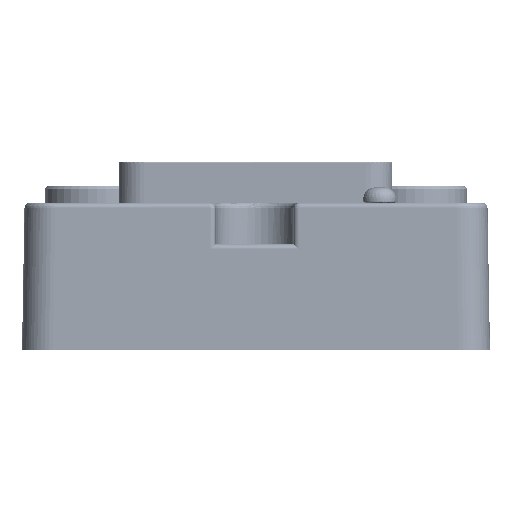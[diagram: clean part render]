
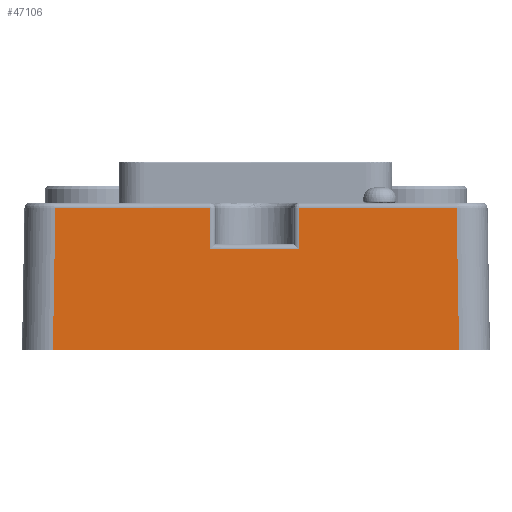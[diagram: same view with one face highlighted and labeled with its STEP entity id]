
A CAD part, left-side view. The second image highlights one B-rep face of the part: STEP entity #47106.
In plain terms, the highlighted planar face has unit normal (-1, 0, 0.018).
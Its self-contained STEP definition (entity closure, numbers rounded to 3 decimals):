
#614 = VERTEX_POINT ( 'NONE', #98675 ) ;
#2257 = LINE ( 'NONE', #100675, #121673 ) ;
#3029 = EDGE_CURVE ( 'NONE', #133093, #178326, #116137, .T. ) ;
#6970 = CARTESIAN_POINT ( 'NONE',  ( -63.129, -4.16, 12.009 ) ) ;
#7585 = CARTESIAN_POINT ( 'NONE',  ( -63.059, -4.16, 16.009 ) ) ;
#10560 = CARTESIAN_POINT ( 'NONE',  ( -63.059, 19.471, 16.009 ) ) ;
#14894 = CARTESIAN_POINT ( 'NONE',  ( -63.059, 4.44, 16.009 ) ) ;
#15286 = CARTESIAN_POINT ( 'NONE',  ( -63.3, 19.712, 2.2 ) ) ;
#19207 = B_SPLINE_CURVE_WITH_KNOTS ( 'NONE', 3,
 ( #10560, #43303, #81333, #15286 ),
 .UNSPECIFIED., .F., .F.,
 ( 4, 4 ),
 ( 0., 1. ),
 .UNSPECIFIED. ) ;
#24008 = EDGE_CURVE ( 'NONE', #166931, #83192, #177763, .T. ) ;
#31771 = CARTESIAN_POINT ( 'NONE',  ( -63.3, 19.712, 2.2 ) ) ;
#37283 = ORIENTED_EDGE ( 'NONE', *, *, #50291, .T. ) ;
#43303 = CARTESIAN_POINT ( 'NONE',  ( -63.139, 19.551, 11.406 ) ) ;
#47106 = ADVANCED_FACE ( 'NONE', ( #136819 ), #200255, .T. ) ;
#47953 = VECTOR ( 'NONE', #165407, 1000. ) ;
#50291 = EDGE_CURVE ( 'NONE', #83192, #114421, #172258, .T. ) ;
#58187 = DIRECTION ( 'NONE',  ( 0., 1., 0. ) ) ;
#59318 = VECTOR ( 'NONE', #119532, 1000. ) ;
#59911 = EDGE_CURVE ( 'NONE', #97400, #166931, #19207, .T. ) ;
#64174 = LINE ( 'NONE', #70493, #59318 ) ;
#64800 = EDGE_CURVE ( 'NONE', #114421, #133093, #78620, .T. ) ;
#68721 = ORIENTED_EDGE ( 'NONE', *, *, #118356, .T. ) ;
#70493 = CARTESIAN_POINT ( 'NONE',  ( -63.18, 4.44, 9.104 ) ) ;
#72523 = CARTESIAN_POINT ( 'NONE',  ( -63.18, -19.592, 9.094 ) ) ;
#76942 = CARTESIAN_POINT ( 'NONE',  ( -63.059, 19.949, 16.009 ) ) ;
#78620 = LINE ( 'NONE', #178844, #159199 ) ;
#79686 = ORIENTED_EDGE ( 'NONE', *, *, #3029, .T. ) ;
#81333 = CARTESIAN_POINT ( 'NONE',  ( -63.22, 19.632, 6.803 ) ) ;
#83192 = VERTEX_POINT ( 'NONE', #109461 ) ;
#84395 = EDGE_LOOP ( 'NONE', ( #138907, #163622, #37283, #135836, #79686, #146900, #117574, #68721 ) ) ;
#86181 = CARTESIAN_POINT ( 'NONE',  ( -63.059, 19.471, 16.009 ) ) ;
#90973 = CARTESIAN_POINT ( 'NONE',  ( -63.059, -19.471, 16.009 ) ) ;
#94658 = EDGE_CURVE ( 'NONE', #614, #106805, #64174, .T. ) ;
#97400 = VERTEX_POINT ( 'NONE', #86181 ) ;
#98471 = DIRECTION ( 'NONE',  ( 0., 1., 0. ) ) ;
#98675 = CARTESIAN_POINT ( 'NONE',  ( -63.129, 4.44, 12.009 ) ) ;
#100040 = EDGE_CURVE ( 'NONE', #178326, #614, #2257, .T. ) ;
#100675 = CARTESIAN_POINT ( 'NONE',  ( -63.129, 0., 12.009 ) ) ;
#106805 = VERTEX_POINT ( 'NONE', #14894 ) ;
#109461 = CARTESIAN_POINT ( 'NONE',  ( -63.3, -19.712, 2.2 ) ) ;
#114421 = VERTEX_POINT ( 'NONE', #90973 ) ;
#116137 = LINE ( 'NONE', #117711, #47953 ) ;
#117521 = VECTOR ( 'NONE', #58187, 1000. ) ;
#117574 = ORIENTED_EDGE ( 'NONE', *, *, #94658, .T. ) ;
#117711 = CARTESIAN_POINT ( 'NONE',  ( -63.18, -4.16, 9.104 ) ) ;
#118356 = EDGE_CURVE ( 'NONE', #106805, #97400, #180845, .T. ) ;
#119532 = DIRECTION ( 'NONE',  ( 0.017, 0., 1. ) ) ;
#121673 = VECTOR ( 'NONE', #145065, 1000. ) ;
#122638 = DIRECTION ( 'NONE',  ( -1., 0., 0.017 ) ) ;
#133093 = VERTEX_POINT ( 'NONE', #7585 ) ;
#135216 = DIRECTION ( 'NONE',  ( 0.017, 0.017, 1. ) ) ;
#135742 = DIRECTION ( 'NONE',  ( 0., -1., 0. ) ) ;
#135836 = ORIENTED_EDGE ( 'NONE', *, *, #64800, .T. ) ;
#136819 = FACE_OUTER_BOUND ( 'NONE', #84395, .T. ) ;
#138907 = ORIENTED_EDGE ( 'NONE', *, *, #59911, .T. ) ;
#145065 = DIRECTION ( 'NONE',  ( 0., 1., 0. ) ) ;
#146122 = VECTOR ( 'NONE', #135742, 1000. ) ;
#146900 = ORIENTED_EDGE ( 'NONE', *, *, #100040, .T. ) ;
#150843 = CARTESIAN_POINT ( 'NONE',  ( -63.059, 11.955, 16.009 ) ) ;
#159199 = VECTOR ( 'NONE', #98471, 1000. ) ;
#163622 = ORIENTED_EDGE ( 'NONE', *, *, #24008, .T. ) ;
#165407 = DIRECTION ( 'NONE',  ( -0.017, 0., -1. ) ) ;
#166931 = VERTEX_POINT ( 'NONE', #31771 ) ;
#169657 = DIRECTION ( 'NONE',  ( -0.017, 0., -1. ) ) ;
#170946 = AXIS2_PLACEMENT_3D ( 'NONE', #76942, #122638, #169657 ) ;
#172258 = LINE ( 'NONE', #72523, #177106 ) ;
#177106 = VECTOR ( 'NONE', #135216, 1000. ) ;
#177763 = LINE ( 'NONE', #182741, #146122 ) ;
#178326 = VERTEX_POINT ( 'NONE', #6970 ) ;
#178844 = CARTESIAN_POINT ( 'NONE',  ( -63.059, -11.816, 16.009 ) ) ;
#180845 = LINE ( 'NONE', #150843, #117521 ) ;
#182741 = CARTESIAN_POINT ( 'NONE',  ( -63.3, 0., 2.2 ) ) ;
#200255 = PLANE ( 'NONE',  #170946 ) ;
